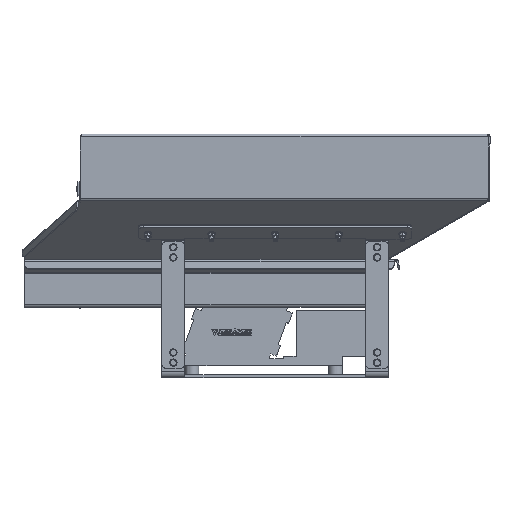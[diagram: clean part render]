
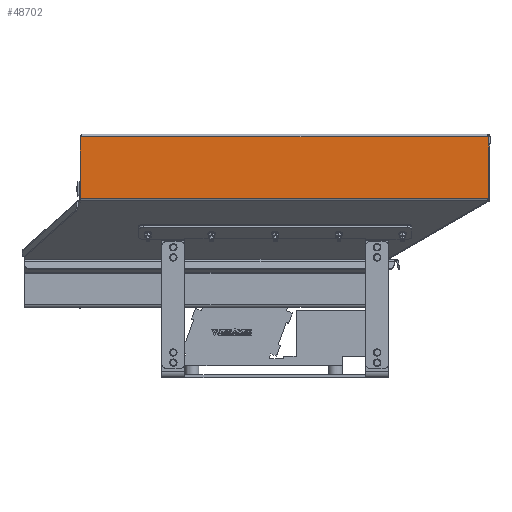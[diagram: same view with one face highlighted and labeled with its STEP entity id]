
A CAD part, top view. The second image highlights one B-rep face of the part: STEP entity #48702.
In plain terms, the highlighted planar face has unit normal (0, 0, 1) as drawn and (1, 0, 0) by its records, which use the part's own axes.
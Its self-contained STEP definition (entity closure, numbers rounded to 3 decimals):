
#1222 = CARTESIAN_POINT ( 'NONE',  ( 615.814, 30.139, -1001.73 ) ) ;
#1983 = EDGE_CURVE ( 'NONE', #35398, #30873, #33234, .T. ) ;
#3447 = CARTESIAN_POINT ( 'NONE',  ( 615.814, 32.139, -120. ) ) ;
#4217 = VECTOR ( 'NONE', #25393, 1000. ) ;
#4432 = DIRECTION ( 'NONE',  ( -1., 0., 0. ) ) ;
#4589 = EDGE_CURVE ( 'NONE', #38930, #41132, #56350, .T. ) ;
#5218 = VERTEX_POINT ( 'NONE', #32682 ) ;
#5244 = EDGE_CURVE ( 'NONE', #5218, #35398, #32898, .T. ) ;
#7187 = CARTESIAN_POINT ( 'NONE',  ( 615.814, 32.139, -1001.73 ) ) ;
#8069 = CARTESIAN_POINT ( 'NONE',  ( 615.814, -100.719, -1000. ) ) ;
#9019 = PLANE ( 'NONE',  #11232 ) ;
#9995 = DIRECTION ( 'NONE',  ( 0., 0., 1. ) ) ;
#11232 = AXIS2_PLACEMENT_3D ( 'NONE', #22624, #4432, #13545 ) ;
#11289 = VECTOR ( 'NONE', #9995, 1000. ) ;
#12562 = ORIENTED_EDGE ( 'NONE', *, *, #37544, .F. ) ;
#13545 = DIRECTION ( 'NONE',  ( 0., -1., 0. ) ) ;
#14188 = CARTESIAN_POINT ( 'NONE',  ( 615.814, 32.139, -998.73 ) ) ;
#15364 = VECTOR ( 'NONE', #23310, 1000. ) ;
#16496 = EDGE_CURVE ( 'NONE', #32466, #5218, #23718, .T. ) ;
#19457 = VECTOR ( 'NONE', #23805, 1000. ) ;
#19565 = CARTESIAN_POINT ( 'NONE',  ( 615.814, -100.719, -120. ) ) ;
#21958 = EDGE_CURVE ( 'NONE', #38930, #23159, #47927, .T. ) ;
#22624 = CARTESIAN_POINT ( 'NONE',  ( 615.814, 30.139, -1000. ) ) ;
#23159 = VERTEX_POINT ( 'NONE', #19565 ) ;
#23310 = DIRECTION ( 'NONE',  ( 0., -1., 0. ) ) ;
#23718 = LINE ( 'NONE', #23760, #40633 ) ;
#23760 = CARTESIAN_POINT ( 'NONE',  ( 615.814, -98.819, -1001.9 ) ) ;
#23805 = DIRECTION ( 'NONE',  ( 0., 1., 0. ) ) ;
#25393 = DIRECTION ( 'NONE',  ( 0., 0., 1. ) ) ;
#28152 = ORIENTED_EDGE ( 'NONE', *, *, #1983, .T. ) ;
#30368 = DIRECTION ( 'NONE',  ( 0., 0., -1. ) ) ;
#30873 = VERTEX_POINT ( 'NONE', #14188 ) ;
#32244 = DIRECTION ( 'NONE',  ( 0., 0.707, -0.707 ) ) ;
#32466 = VERTEX_POINT ( 'NONE', #8069 ) ;
#32682 = CARTESIAN_POINT ( 'NONE',  ( 615.814, -98.989, -1001.73 ) ) ;
#32898 = LINE ( 'NONE', #1222, #19457 ) ;
#33234 = LINE ( 'NONE', #7187, #4217 ) ;
#35398 = VERTEX_POINT ( 'NONE', #42993 ) ;
#37544 = EDGE_CURVE ( 'NONE', #32466, #23159, #48078, .T. ) ;
#38930 = VERTEX_POINT ( 'NONE', #3447 ) ;
#39965 = CARTESIAN_POINT ( 'NONE',  ( 615.814, 32.139, -123. ) ) ;
#40633 = VECTOR ( 'NONE', #32244, 1000. ) ;
#41132 = VERTEX_POINT ( 'NONE', #39965 ) ;
#41918 = CARTESIAN_POINT ( 'NONE',  ( 615.814, 32.139, -1001.73 ) ) ;
#42565 = ORIENTED_EDGE ( 'NONE', *, *, #21958, .T. ) ;
#42623 = LINE ( 'NONE', #41918, #45462 ) ;
#42990 = EDGE_LOOP ( 'NONE', ( #58284, #28152, #44687, #57651, #42565, #12562, #55914 ) ) ;
#42993 = CARTESIAN_POINT ( 'NONE',  ( 615.814, 32.139, -1001.73 ) ) ;
#43269 = EDGE_CURVE ( 'NONE', #30873, #41132, #42623, .T. ) ;
#43474 = FACE_OUTER_BOUND ( 'NONE', #42990, .T. ) ;
#44271 = VECTOR ( 'NONE', #30368, 1000. ) ;
#44687 = ORIENTED_EDGE ( 'NONE', *, *, #43269, .T. ) ;
#45462 = VECTOR ( 'NONE', #51043, 1000. ) ;
#46420 = CARTESIAN_POINT ( 'NONE',  ( 615.814, 30.139, -120. ) ) ;
#47927 = LINE ( 'NONE', #46420, #15364 ) ;
#47970 = CARTESIAN_POINT ( 'NONE',  ( 615.814, 32.139, -120. ) ) ;
#48078 = LINE ( 'NONE', #50673, #11289 ) ;
#48702 = ADVANCED_FACE ( 'NONE', ( #43474 ), #9019, .F. ) ;
#50673 = CARTESIAN_POINT ( 'NONE',  ( 615.814, -100.719, -1000. ) ) ;
#51043 = DIRECTION ( 'NONE',  ( 0., 0., 1. ) ) ;
#55914 = ORIENTED_EDGE ( 'NONE', *, *, #16496, .T. ) ;
#56350 = LINE ( 'NONE', #47970, #44271 ) ;
#57651 = ORIENTED_EDGE ( 'NONE', *, *, #4589, .F. ) ;
#58284 = ORIENTED_EDGE ( 'NONE', *, *, #5244, .T. ) ;
